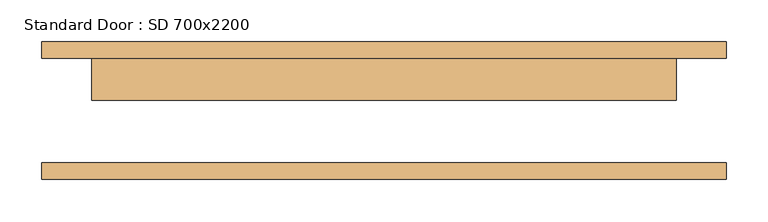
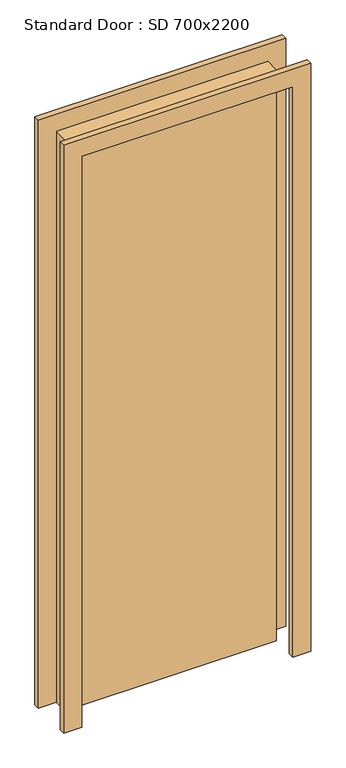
"""IFC4 building model written with IfcOpenShell, lengths in millimetres: door geometry, Standard Door : SD 700x2200."""

import ifcopenshell
import ifcopenshell.guid

model = None  # the IFC model being written
_history = None  # IfcOwnerHistory: only IFC2X3 demands one
_inside = {}  # id of a spatial element -> (the spatial element, [elements in it])
_under = {}  # id of a project, library or spatial element -> (it, [spatial elements below it])
_declared = {}  # id of a project -> (the project, [libraries it declares])
_typed = {}  # id of a type object -> (the type object, [elements of that type])
_made_of = {}  # id of a material, layer set ... -> (it, [elements and type objects made of it])


def new_model(schema):
    """Start an empty IFC model of exactly this schema.

    Asked for "IFC4X3", IfcOpenShell would pick the latest addendum, in which some entities
    have other attributes; the version numbers below select the first issue.
    IFC2X3 requires an IfcOwnerHistory on every rooted entity: one is made here for all.
    """
    global model, _history
    if schema == "IFC4X3":
        model = ifcopenshell.file(schema_version=(4, 3, 0, 0))
    else:
        model = ifcopenshell.file(schema=schema)
    _inside.clear()
    _under.clear()
    _declared.clear()
    _typed.clear()
    _made_of.clear()
    _history = None
    if model.schema == "IFC2X3":
        org = make("IfcOrganization", Name="unknown")
        user = make(
            "IfcPersonAndOrganization",
            ThePerson=make("IfcPerson", FamilyName="unknown"),
            TheOrganization=org,
        )
        app = make(
            "IfcApplication",
            ApplicationDeveloper=org,
            Version="unknown",
            ApplicationFullName="unknown",
            ApplicationIdentifier="unknown",
        )
        _history = make(
            "IfcOwnerHistory",
            OwningUser=user,
            OwningApplication=app,
            ChangeAction="ADDED",
            CreationDate=0,
        )
    return model


def make(cls, **values):
    """One entity of the class cls with the attributes given. An attribute that is None is left unset."""
    return model.create_entity(
        cls, **{name: value for name, value in values.items() if value is not None}
    )


def rooted(cls, **values):
    """An entity with a GlobalId (a new one), such as an element, a storey or a relation."""
    return make(cls, GlobalId=ifcopenshell.guid.new(), OwnerHistory=_history, **values)


def si_unit(unit_type, name, prefix=None):
    """IfcSIUnit, for example si_unit("LENGTHUNIT", "METRE", prefix="MILLI")."""
    return make("IfcSIUnit", UnitType=unit_type, Prefix=prefix, Name=name)


def assignment(units):
    """IfcUnitAssignment: the units of a project."""
    return None if units is None else make("IfcUnitAssignment", Units=units)


def point(xyz):
    """IfcCartesianPoint."""
    return None if xyz is None else make("IfcCartesianPoint", Coordinates=xyz)


def direction(xyz):
    """IfcDirection."""
    return None if xyz is None else make("IfcDirection", DirectionRatios=xyz)


def frame(location, z_axis=None, x_axis=None):
    """IfcAxis2Placement3D, a coordinate frame: its origin and axes. An axis left out is left unset."""
    return make(
        "IfcAxis2Placement3D",
        Location=point(location),
        Axis=direction(z_axis),
        RefDirection=direction(x_axis),
    )


def origin():
    """The frame at (0, 0, 0) with its axes left unset."""
    return frame((0.0, 0.0, 0.0))


def origin_with_axes():
    """The frame at (0, 0, 0) with the z axis (0, 0, 1) and the x axis (1, 0, 0) written out."""
    return frame((0.0, 0.0, 0.0), z_axis=(0.0, 0.0, 1.0), x_axis=(1.0, 0.0, 0.0))


def place(relative_to, where):
    """IfcLocalPlacement: puts the frame where relative to a parent placement (None: the world)."""
    return make(
        "IfcLocalPlacement", PlacementRelTo=relative_to, RelativePlacement=where
    )


def context(
    kind, dimensions, precision=None, world=None, true_north=None, identifier=None
):
    """IfcGeometricRepresentationContext, for example the 3D "Model" context."""
    return make(
        "IfcGeometricRepresentationContext",
        ContextIdentifier=identifier,
        ContextType=kind,
        CoordinateSpaceDimension=dimensions,
        Precision=precision,
        WorldCoordinateSystem=world,
        TrueNorth=true_north,
    )


def project(units=None, contexts=None):
    """IfcProject with its units and contexts."""
    return rooted(
        "IfcProject",
        Name="project",
        RepresentationContexts=contexts,
        UnitsInContext=assignment(units),
    )


def spatial(cls, under=None, at=None, **own):
    """A site, building, storey or space (cls), placed at a placement, below another one or the project."""
    s = rooted(cls, ObjectPlacement=at, **own)
    if under is not None:
        _under.setdefault(under.id(), (under, []))[1].append(s)
    return s


def polyline(points):
    """IfcPolyline through the points."""
    return make("IfcPolyline", Points=[point(p) for p in points])


def outline(outer, holes=None, kind="AREA"):
    """IfcArbitraryClosedProfileDef: a profile drawn as a closed curve; with holes, ...WithVoids."""
    if holes is None:
        return make("IfcArbitraryClosedProfileDef", ProfileType=kind, OuterCurve=outer)
    return make(
        "IfcArbitraryProfileDefWithVoids",
        ProfileType=kind,
        OuterCurve=outer,
        InnerCurves=holes,
    )


def extrude(swept, where, along, depth):
    """IfcExtrudedAreaSolid: the profile swept, set in the frame where, extruded along a direction by depth."""
    return make(
        "IfcExtrudedAreaSolid",
        SweptArea=swept,
        Position=where,
        ExtrudedDirection=direction(along),
        Depth=depth,
    )


def shape(context_of_items, identifier, shape_type, items):
    """IfcShapeRepresentation: the items that make up one representation, for example the "Body"."""
    return make(
        "IfcShapeRepresentation",
        ContextOfItems=context_of_items,
        RepresentationIdentifier=identifier,
        RepresentationType=shape_type,
        Items=items,
    )


def source(mapping_origin, context_of_items, identifier, shape_type, items):
    """IfcRepresentationMap: a shape defined once, which mapped items show again and again."""
    return make(
        "IfcRepresentationMap",
        MappingOrigin=mapping_origin,
        MappedRepresentation=shape(context_of_items, identifier, shape_type, items),
    )


def transform(
    local_origin,
    x_axis=None,
    y_axis=None,
    z_axis=None,
    scale=None,
    scale2=None,
    scale3=None,
    uniform=True,
):
    """IfcCartesianTransformationOperator3D, or its non-uniform kind. x_axis, y_axis, z_axis: its Axis1, 2, 3."""
    if uniform:
        return make(
            "IfcCartesianTransformationOperator3D",
            Axis1=direction(x_axis),
            Axis2=direction(y_axis),
            LocalOrigin=point(local_origin),
            Scale=scale,
            Axis3=direction(z_axis),
        )
    return make(
        "IfcCartesianTransformationOperator3DnonUniform",
        Axis1=direction(x_axis),
        Axis2=direction(y_axis),
        LocalOrigin=point(local_origin),
        Scale=scale,
        Axis3=direction(z_axis),
        Scale2=scale2,
        Scale3=scale3,
    )


def mapped(mapping_source, mapping_target):
    """IfcMappedItem: shows the shape of a source again, moved by a transform."""
    return make(
        "IfcMappedItem", MappingSource=mapping_source, MappingTarget=mapping_target
    )


def made_of(thing, what):
    """Note that an element or type object is made of a material, layer set ...; save() writes the relation."""
    if what is not None:
        _made_of.setdefault(what.id(), (what, []))[1].append(thing)
    return thing


def element(
    cls,
    number,
    at=None,
    inside=None,
    cuts=None,
    type_object=None,
    material=None,
    context=None,
    identifier="Body",
    shape_type=None,
    held_by="IfcProductDefinitionShape",
    body=None,
    shapes=None,
    **own,
):
    """One element of the class cls, such as IfcWall. Its Tag is "e" and its number.

    at: its placement. inside: the storey or other place that contains it. cuts: it is an
    opening in that element (IfcRelVoidsElement). A single representation is given by context,
    identifier, shape_type and body (its items); several are given by shapes. held_by: the class
    of the entity that holds the representations. save() writes the other relations.
    """
    e = rooted(cls, Tag="e%d" % number, ObjectPlacement=at, **own)
    if body is not None:
        shapes = [shape(context, identifier, shape_type, body)]
    if shapes is not None:
        e.Representation = make(held_by, Representations=shapes)
    if inside is not None:
        _inside.setdefault(inside.id(), (inside, []))[1].append(e)
    if cuts is not None:
        rooted(
            "IfcRelVoidsElement", RelatingBuildingElement=cuts, RelatedOpeningElement=e
        )
    if type_object is not None:
        _typed.setdefault(type_object.id(), (type_object, []))[1].append(e)
    return made_of(e, material)


def aggregate(whole, parts):
    """IfcRelAggregates: a whole, such as a stair, and the parts it consists of."""
    return rooted("IfcRelAggregates", RelatingObject=whole, RelatedObjects=parts)


def save(model, path):
    """Write the relations noted so far, then the file.

    IfcRelAggregates (storeys below a building ...), IfcRelContainedInSpatialStructure (elements
    in a storey), IfcRelDefinesByType, IfcRelAssociatesMaterial and IfcRelDeclares: one each for
    every whole, place, type object, material and project.
    """
    for whole, parts in _under.values():
        aggregate(whole, parts)
    for where, things in _inside.values():
        rooted(
            "IfcRelContainedInSpatialStructure",
            RelatedElements=things,
            RelatingStructure=where,
        )
    for kind, things in _typed.values():
        rooted("IfcRelDefinesByType", RelatedObjects=things, RelatingType=kind)
    for what, things in _made_of.values():
        rooted("IfcRelAssociatesMaterial", RelatedObjects=things, RelatingMaterial=what)
    for by, libraries in _declared.values():
        rooted("IfcRelDeclares", RelatingContext=by, RelatedDefinitions=libraries)
    model.write(path)


def standard_door_sd_700x2200_88b99a9a(model_context):
    return source(origin(), model_context, "Body", "SweptSolid", [
        extrude(outline(polyline([(2060.0, -410.0), (0.0, -410.0), (0.0, -350.0), (2000.0, -350.0), (2000.0, 350.0), (0.0, 350.0), (0.0, 410.0), (2060.0, 410.0), (2060.0, -410.0)])), frame((0.0, 62.5, 0.0), z_axis=(0.0, 1.0, 0.0), x_axis=(0.0, 0.0, 1.0)), (0.0, 0.0, 1.0), 20.0),
        extrude(outline(polyline([(2060.0, 410.0), (2060.0, -410.0), (0.0, -410.0), (0.0, -350.0), (2000.0, -350.0), (2000.0, 350.0), (0.0, 350.0), (0.0, 410.0), (2060.0, 410.0)])), frame((0.0, -82.5, 0.0), z_axis=(0.0, 1.0, 0.0), x_axis=(0.0, 0.0, 1.0)), (0.0, 0.0, 1.0), 20.0),
        extrude(outline(polyline([(350.0, 12.5), (-350.0, 12.5), (-350.0, 62.5), (350.0, 62.5), (350.0, 12.5)])), origin_with_axes(), (0.0, 0.0, 1.0), 2000.0),
    ])


if __name__ == "__main__":
    model = new_model("IFC4")
    model_context = context("Model", 3, world=origin())
    ifc_project = project(units=[si_unit("LENGTHUNIT", "METRE", prefix="MILLI")], contexts=[model_context])
    site = spatial("IfcSite", under=ifc_project)
    building = spatial("IfcBuilding", under=site)
    placement = place(None, origin())
    standard_door_sd_700x2200_shape = standard_door_sd_700x2200_88b99a9a(model_context)
    element("IfcDoor", 1, ObjectType="Standard Door : SD 700x2200", at=placement, inside=building, context=model_context, shape_type="MappedRepresentation", body=[
        mapped(standard_door_sd_700x2200_shape, transform((0.0, 0.0, 0.0), x_axis=(1.0, 0.0, 0.0), y_axis=(0.0, 1.0, 0.0), z_axis=(0.0, 0.0, 1.0))),
    ])
    save(model, "model.ifc")
